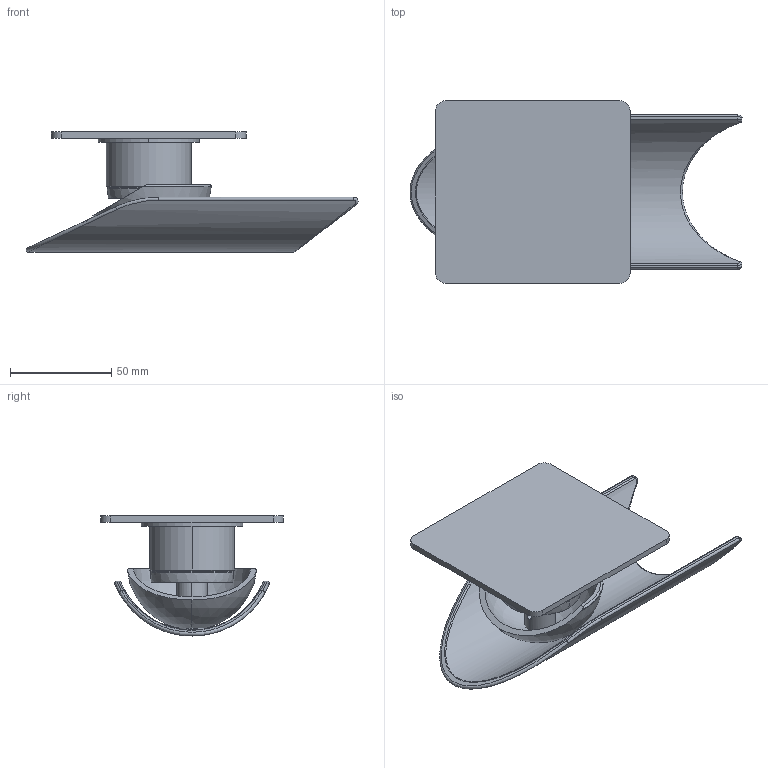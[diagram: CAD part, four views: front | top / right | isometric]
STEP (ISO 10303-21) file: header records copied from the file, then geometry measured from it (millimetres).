
FILE_DESCRIPTION(('CoCreate Modeling STEP Export'),'2;1');
FILE_NAME('73.690.stp','2012-06-04T 9:55:55',(''),(''),'CoCreate Modeling STEP processor for AP214 (Solid Model)','CoCreate Modeling 17.0 01-Apr-2010 (C) Parametric Technology GmbH','');
FILE_SCHEMA(('AUTOMOTIVE_DESIGN { 1 0 10303 214 1 1 1 1 }'));
Length unit declared in the file: millimetre
Products named in the file (2): moz
Assembly tree (1 placements, depth 2):
  moz
    moz
Bounding box: 163.75 x 90 x 59.2 mm (x, y, z)
Volume: 118695.8 mm3; surface area: 58074.6 mm2
Topology: 1 solids, 2 shells, 78 faces, 180 edges, 107 vertices
Faces by surface type: cylinder 31, plane 15, bspline 12, torus 8, sphere 8, cone 4
Entity records: 12821 total; most frequent: CARTESIAN_POINT 11340, ORIENTED_EDGE 352, DIRECTION 223, EDGE_CURVE 176, VERTEX_POINT 107, AXIS2_PLACEMENT_3D 85, EDGE_LOOP 83, FACE_OUTER_BOUND 78
